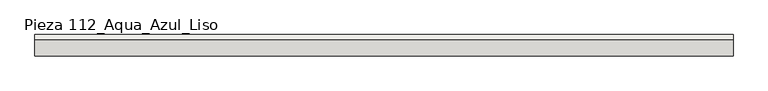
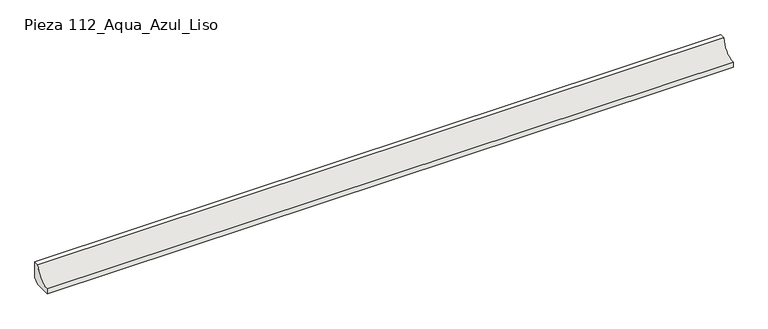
"""IFC4 building model written with IfcOpenShell, lengths in millimetres: slab geometry, ROSA GRES_112 : Pieza 112_Aqua_Azul_Liso."""

import ifcopenshell
import ifcopenshell.guid

model = None  # the IFC model being written
_history = None  # IfcOwnerHistory: only IFC2X3 demands one
_inside = {}  # id of a spatial element -> (the spatial element, [elements in it])
_under = {}  # id of a project, library or spatial element -> (it, [spatial elements below it])
_declared = {}  # id of a project -> (the project, [libraries it declares])
_typed = {}  # id of a type object -> (the type object, [elements of that type])
_made_of = {}  # id of a material, layer set ... -> (it, [elements and type objects made of it])


def new_model(schema):
    """Start an empty IFC model of exactly this schema.

    Asked for "IFC4X3", IfcOpenShell would pick the latest addendum, in which some entities
    have other attributes; the version numbers below select the first issue.
    IFC2X3 requires an IfcOwnerHistory on every rooted entity: one is made here for all.
    """
    global model, _history
    if schema == "IFC4X3":
        model = ifcopenshell.file(schema_version=(4, 3, 0, 0))
    else:
        model = ifcopenshell.file(schema=schema)
    _inside.clear()
    _under.clear()
    _declared.clear()
    _typed.clear()
    _made_of.clear()
    _history = None
    if model.schema == "IFC2X3":
        org = make("IfcOrganization", Name="unknown")
        user = make(
            "IfcPersonAndOrganization",
            ThePerson=make("IfcPerson", FamilyName="unknown"),
            TheOrganization=org,
        )
        app = make(
            "IfcApplication",
            ApplicationDeveloper=org,
            Version="unknown",
            ApplicationFullName="unknown",
            ApplicationIdentifier="unknown",
        )
        _history = make(
            "IfcOwnerHistory",
            OwningUser=user,
            OwningApplication=app,
            ChangeAction="ADDED",
            CreationDate=0,
        )
    return model


def make(cls, **values):
    """One entity of the class cls with the attributes given. An attribute that is None is left unset."""
    return model.create_entity(
        cls, **{name: value for name, value in values.items() if value is not None}
    )


def rooted(cls, **values):
    """An entity with a GlobalId (a new one), such as an element, a storey or a relation."""
    return make(cls, GlobalId=ifcopenshell.guid.new(), OwnerHistory=_history, **values)


def si_unit(unit_type, name, prefix=None):
    """IfcSIUnit, for example si_unit("LENGTHUNIT", "METRE", prefix="MILLI")."""
    return make("IfcSIUnit", UnitType=unit_type, Prefix=prefix, Name=name)


def assignment(units):
    """IfcUnitAssignment: the units of a project."""
    return None if units is None else make("IfcUnitAssignment", Units=units)


def point(xyz):
    """IfcCartesianPoint."""
    return None if xyz is None else make("IfcCartesianPoint", Coordinates=xyz)


def direction(xyz):
    """IfcDirection."""
    return None if xyz is None else make("IfcDirection", DirectionRatios=xyz)


def frame(location, z_axis=None, x_axis=None):
    """IfcAxis2Placement3D, a coordinate frame: its origin and axes. An axis left out is left unset."""
    return make(
        "IfcAxis2Placement3D",
        Location=point(location),
        Axis=direction(z_axis),
        RefDirection=direction(x_axis),
    )


def frame_2d(location, x_axis=None):
    """IfcAxis2Placement2D, a coordinate frame in the plane: its origin and x axis."""
    return make(
        "IfcAxis2Placement2D", Location=point(location), RefDirection=direction(x_axis)
    )


def origin():
    """The frame at (0, 0, 0) with its axes left unset."""
    return frame((0.0, 0.0, 0.0))


def place(relative_to, where):
    """IfcLocalPlacement: puts the frame where relative to a parent placement (None: the world)."""
    return make(
        "IfcLocalPlacement", PlacementRelTo=relative_to, RelativePlacement=where
    )


def context(
    kind, dimensions, precision=None, world=None, true_north=None, identifier=None
):
    """IfcGeometricRepresentationContext, for example the 3D "Model" context."""
    return make(
        "IfcGeometricRepresentationContext",
        ContextIdentifier=identifier,
        ContextType=kind,
        CoordinateSpaceDimension=dimensions,
        Precision=precision,
        WorldCoordinateSystem=world,
        TrueNorth=true_north,
    )


def project(units=None, contexts=None):
    """IfcProject with its units and contexts."""
    return rooted(
        "IfcProject",
        Name="project",
        RepresentationContexts=contexts,
        UnitsInContext=assignment(units),
    )


def spatial(cls, under=None, at=None, **own):
    """A site, building, storey or space (cls), placed at a placement, below another one or the project."""
    s = rooted(cls, ObjectPlacement=at, **own)
    if under is not None:
        _under.setdefault(under.id(), (under, []))[1].append(s)
    return s


def polyline(points):
    """IfcPolyline through the points."""
    return make("IfcPolyline", Points=[point(p) for p in points])


def circle_curve(where, radius):
    """IfcCircle in the frame where."""
    return make("IfcCircle", Position=where, Radius=radius)


def trimmed(basis, trim1, trim2, sense, master):
    """IfcTrimmedCurve: the piece of a basis curve between two trims."""
    return make(
        "IfcTrimmedCurve",
        BasisCurve=basis,
        Trim1=trim1,
        Trim2=trim2,
        SenseAgreement=sense,
        MasterRepresentation=master,
    )


def segment(curve, same_sense, transition):
    """IfcCompositeCurveSegment."""
    return make(
        "IfcCompositeCurveSegment",
        Transition=transition,
        SameSense=same_sense,
        ParentCurve=curve,
    )


def composite_curve(segments, self_intersect=None):
    """IfcCompositeCurve: segments joined end to end."""
    return make("IfcCompositeCurve", Segments=segments, SelfIntersect=self_intersect)


def outline(outer, holes=None, kind="AREA"):
    """IfcArbitraryClosedProfileDef: a profile drawn as a closed curve; with holes, ...WithVoids."""
    if holes is None:
        return make("IfcArbitraryClosedProfileDef", ProfileType=kind, OuterCurve=outer)
    return make(
        "IfcArbitraryProfileDefWithVoids",
        ProfileType=kind,
        OuterCurve=outer,
        InnerCurves=holes,
    )


def extrude(swept, where, along, depth):
    """IfcExtrudedAreaSolid: the profile swept, set in the frame where, extruded along a direction by depth."""
    return make(
        "IfcExtrudedAreaSolid",
        SweptArea=swept,
        Position=where,
        ExtrudedDirection=direction(along),
        Depth=depth,
    )


def shape(context_of_items, identifier, shape_type, items):
    """IfcShapeRepresentation: the items that make up one representation, for example the "Body"."""
    return make(
        "IfcShapeRepresentation",
        ContextOfItems=context_of_items,
        RepresentationIdentifier=identifier,
        RepresentationType=shape_type,
        Items=items,
    )


def source(mapping_origin, context_of_items, identifier, shape_type, items):
    """IfcRepresentationMap: a shape defined once, which mapped items show again and again."""
    return make(
        "IfcRepresentationMap",
        MappingOrigin=mapping_origin,
        MappedRepresentation=shape(context_of_items, identifier, shape_type, items),
    )


def transform(
    local_origin,
    x_axis=None,
    y_axis=None,
    z_axis=None,
    scale=None,
    scale2=None,
    scale3=None,
    uniform=True,
):
    """IfcCartesianTransformationOperator3D, or its non-uniform kind. x_axis, y_axis, z_axis: its Axis1, 2, 3."""
    if uniform:
        return make(
            "IfcCartesianTransformationOperator3D",
            Axis1=direction(x_axis),
            Axis2=direction(y_axis),
            LocalOrigin=point(local_origin),
            Scale=scale,
            Axis3=direction(z_axis),
        )
    return make(
        "IfcCartesianTransformationOperator3DnonUniform",
        Axis1=direction(x_axis),
        Axis2=direction(y_axis),
        LocalOrigin=point(local_origin),
        Scale=scale,
        Axis3=direction(z_axis),
        Scale2=scale2,
        Scale3=scale3,
    )


def mapped(mapping_source, mapping_target):
    """IfcMappedItem: shows the shape of a source again, moved by a transform."""
    return make(
        "IfcMappedItem", MappingSource=mapping_source, MappingTarget=mapping_target
    )


def made_of(thing, what):
    """Note that an element or type object is made of a material, layer set ...; save() writes the relation."""
    if what is not None:
        _made_of.setdefault(what.id(), (what, []))[1].append(thing)
    return thing


def element(
    cls,
    number,
    at=None,
    inside=None,
    cuts=None,
    type_object=None,
    material=None,
    context=None,
    identifier="Body",
    shape_type=None,
    held_by="IfcProductDefinitionShape",
    body=None,
    shapes=None,
    **own,
):
    """One element of the class cls, such as IfcWall. Its Tag is "e" and its number.

    at: its placement. inside: the storey or other place that contains it. cuts: it is an
    opening in that element (IfcRelVoidsElement). A single representation is given by context,
    identifier, shape_type and body (its items); several are given by shapes. held_by: the class
    of the entity that holds the representations. save() writes the other relations.
    """
    e = rooted(cls, Tag="e%d" % number, ObjectPlacement=at, **own)
    if body is not None:
        shapes = [shape(context, identifier, shape_type, body)]
    if shapes is not None:
        e.Representation = make(held_by, Representations=shapes)
    if inside is not None:
        _inside.setdefault(inside.id(), (inside, []))[1].append(e)
    if cuts is not None:
        rooted(
            "IfcRelVoidsElement", RelatingBuildingElement=cuts, RelatedOpeningElement=e
        )
    if type_object is not None:
        _typed.setdefault(type_object.id(), (type_object, []))[1].append(e)
    return made_of(e, material)


def aggregate(whole, parts):
    """IfcRelAggregates: a whole, such as a stair, and the parts it consists of."""
    return rooted("IfcRelAggregates", RelatingObject=whole, RelatedObjects=parts)


def save(model, path):
    """Write the relations noted so far, then the file.

    IfcRelAggregates (storeys below a building ...), IfcRelContainedInSpatialStructure (elements
    in a storey), IfcRelDefinesByType, IfcRelAssociatesMaterial and IfcRelDeclares: one each for
    every whole, place, type object, material and project.
    """
    for whole, parts in _under.values():
        aggregate(whole, parts)
    for where, things in _inside.values():
        rooted(
            "IfcRelContainedInSpatialStructure",
            RelatedElements=things,
            RelatingStructure=where,
        )
    for kind, things in _typed.values():
        rooted("IfcRelDefinesByType", RelatedObjects=things, RelatingType=kind)
    for what, things in _made_of.values():
        rooted("IfcRelAssociatesMaterial", RelatedObjects=things, RelatingMaterial=what)
    for by, libraries in _declared.values():
        rooted("IfcRelDeclares", RelatingContext=by, RelatedDefinitions=libraries)
    model.write(path)


def pieza_112_aqua_azul_liso_6c293751(model_context):
    return source(origin(), model_context, "Body", "SweptSolid", [
        extrude(outline(composite_curve([segment(polyline([(0.0, 8.7114978), (-8.7114978, 0.0), (-40.0, 0.0), (-40.0, 9.9734114)]), True, "CONTINUOUS"), segment(trimmed(circle_curve(frame_2d((-39.9955547, 39.9955547)), 30.0221435), [point((-40.0, 9.9734114))], [point((-9.9734114, 40.0))], True, "CARTESIAN"), True, "CONTINUOUS"), segment(polyline([(-9.9734114, 40.0), (0.0, 40.0), (0.0, 8.7114978)]), True, "CONTINUOUS")], self_intersect=False)), frame((0.0, 0.0, 0.0), z_axis=(1.0, 0.0, 0.0), x_axis=(0.0, 1.0, 0.0)), (0.0, 0.0, 1.0), 1293.7308505),
    ])


if __name__ == "__main__":
    model = new_model("IFC4")
    model_context = context("Model", 3, world=origin())
    ifc_project = project(units=[si_unit("LENGTHUNIT", "METRE", prefix="MILLI")], contexts=[model_context])
    site = spatial("IfcSite", under=ifc_project)
    building = spatial("IfcBuilding", under=site)
    placement = place(None, origin())
    pieza_112_aqua_azul_liso_shape = pieza_112_aqua_azul_liso_6c293751(model_context)
    element("IfcSlab", 1, ObjectType="ROSA GRES_112 : Pieza 112_Aqua_Azul_Liso", at=placement, inside=building, context=model_context, shape_type="MappedRepresentation", body=[
        mapped(pieza_112_aqua_azul_liso_shape, transform((0.0, 0.0, 0.0), x_axis=(1.0, 0.0, 0.0), y_axis=(0.0, 1.0, 0.0), z_axis=(0.0, 0.0, 1.0))),
    ])
    save(model, "model.ifc")
